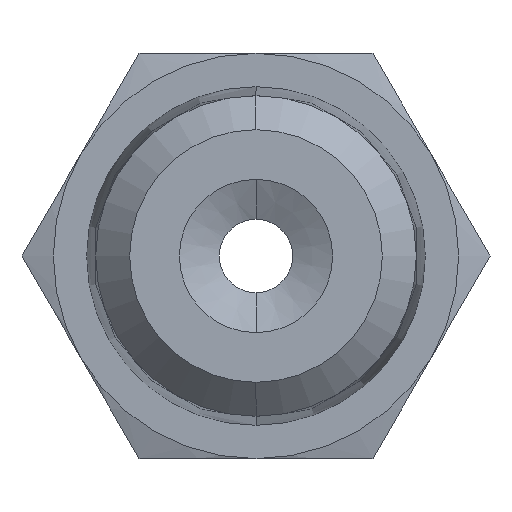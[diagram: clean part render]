
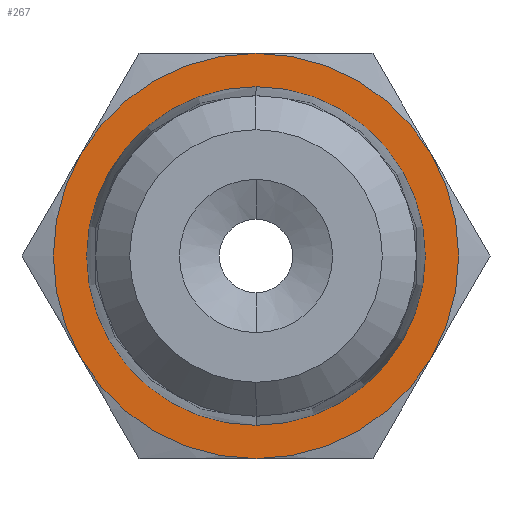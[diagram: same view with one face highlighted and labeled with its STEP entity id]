
A CAD part, left-side view. The second image highlights one B-rep face of the part: STEP entity #267.
In plain terms, the highlighted planar face has unit normal (-1, 0, 0).
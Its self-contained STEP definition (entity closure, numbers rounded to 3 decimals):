
#7 = VERTEX_POINT ( 'NONE', #390 ) ;
#9 = EDGE_CURVE ( 'NONE', #7, #10, #389, .T. ) ;
#10 = VERTEX_POINT ( 'NONE', #384 ) ;
#78 = VERTEX_POINT ( 'NONE', #702 ) ;
#110 = VERTEX_POINT ( 'NONE', #733 ) ;
#134 = ORIENTED_EDGE ( 'NONE', *, *, #135, .F. ) ;
#135 = EDGE_CURVE ( 'NONE', #246, #257, #690, .T. ) ;
#136 = ORIENTED_EDGE ( 'NONE', *, *, #137, .F. ) ;
#137 = EDGE_CURVE ( 'NONE', #281, #246, #685, .T. ) ;
#138 = ORIENTED_EDGE ( 'NONE', *, *, #139, .F. ) ;
#139 = EDGE_CURVE ( 'NONE', #78, #281, #680, .T. ) ;
#144 = VERTEX_POINT ( 'NONE', #675 ) ;
#246 = VERTEX_POINT ( 'NONE', #1223 ) ;
#257 = VERTEX_POINT ( 'NONE', #1144 ) ;
#267 = ADVANCED_FACE ( 'NONE', ( #1262, #1260 ), #1259, .F. ) ;
#268 = EDGE_LOOP ( 'NONE', ( #269, #271 ) ) ;
#269 = ORIENTED_EDGE ( 'NONE', *, *, #270, .F. ) ;
#270 = EDGE_CURVE ( 'NONE', #10, #7, #1248, .T. ) ;
#271 = ORIENTED_EDGE ( 'NONE', *, *, #9, .F. ) ;
#272 = EDGE_LOOP ( 'NONE', ( #273, #134, #136, #138, #284, #286 ) ) ;
#273 = ORIENTED_EDGE ( 'NONE', *, *, #274, .F. ) ;
#274 = EDGE_CURVE ( 'NONE', #257, #110, #1243, .T. ) ;
#281 = VERTEX_POINT ( 'NONE', #1118 ) ;
#284 = ORIENTED_EDGE ( 'NONE', *, *, #285, .T. ) ;
#285 = EDGE_CURVE ( 'NONE', #78, #144, #1107, .T. ) ;
#286 = ORIENTED_EDGE ( 'NONE', *, *, #287, .F. ) ;
#287 = EDGE_CURVE ( 'NONE', #110, #144, #1102, .T. ) ;
#384 = CARTESIAN_POINT ( 'NONE',  ( 0., 0., 5.306 ) ) ;
#385 = DIRECTION ( 'NONE',  ( 0., 0., -1. ) ) ;
#386 = DIRECTION ( 'NONE',  ( -1., 0., 0. ) ) ;
#387 = CARTESIAN_POINT ( 'NONE',  ( 0., 0., 0. ) ) ;
#388 = AXIS2_PLACEMENT_3D ( 'NONE', #387, #386, #385 ) ;
#389 = CIRCLE ( 'NONE', #388, 5.306 ) ;
#390 = CARTESIAN_POINT ( 'NONE',  ( 0., 0., -5.306 ) ) ;
#675 = CARTESIAN_POINT ( 'NONE',  ( 0., 5.499, 3.175 ) ) ;
#676 = DIRECTION ( 'NONE',  ( 0., 0., -1. ) ) ;
#677 = DIRECTION ( 'NONE',  ( 1., 0., 0. ) ) ;
#678 = CARTESIAN_POINT ( 'NONE',  ( 0., 0., 0. ) ) ;
#679 = AXIS2_PLACEMENT_3D ( 'NONE', #678, #677, #676 ) ;
#680 = CIRCLE ( 'NONE', #679, 6.35 ) ;
#681 = DIRECTION ( 'NONE',  ( 0., 0., -1. ) ) ;
#682 = DIRECTION ( 'NONE',  ( 1., 0., 0. ) ) ;
#683 = CARTESIAN_POINT ( 'NONE',  ( 0., 0., 0. ) ) ;
#684 = AXIS2_PLACEMENT_3D ( 'NONE', #683, #682, #681 ) ;
#685 = CIRCLE ( 'NONE', #684, 6.35 ) ;
#686 = DIRECTION ( 'NONE',  ( 0., 0., -1. ) ) ;
#687 = DIRECTION ( 'NONE',  ( 1., 0., 0. ) ) ;
#688 = CARTESIAN_POINT ( 'NONE',  ( 0., 0., 0. ) ) ;
#689 = AXIS2_PLACEMENT_3D ( 'NONE', #688, #687, #686 ) ;
#690 = CIRCLE ( 'NONE', #689, 6.35 ) ;
#702 = CARTESIAN_POINT ( 'NONE',  ( 0., 0., 6.35 ) ) ;
#733 = CARTESIAN_POINT ( 'NONE',  ( 0., 5.499, -3.175 ) ) ;
#1098 = DIRECTION ( 'NONE',  ( 0., 0., -1. ) ) ;
#1099 = DIRECTION ( 'NONE',  ( 1., 0., 0. ) ) ;
#1100 = CARTESIAN_POINT ( 'NONE',  ( 0., 0., 0. ) ) ;
#1101 = AXIS2_PLACEMENT_3D ( 'NONE', #1100, #1099, #1098 ) ;
#1102 = CIRCLE ( 'NONE', #1101, 6.35 ) ;
#1103 = DIRECTION ( 'NONE',  ( 0., 0., 1. ) ) ;
#1104 = DIRECTION ( 'NONE',  ( -1., 0., 0. ) ) ;
#1105 = CARTESIAN_POINT ( 'NONE',  ( 0., 0., 0. ) ) ;
#1106 = AXIS2_PLACEMENT_3D ( 'NONE', #1105, #1104, #1103 ) ;
#1107 = CIRCLE ( 'NONE', #1106, 6.35 ) ;
#1118 = CARTESIAN_POINT ( 'NONE',  ( 0., -5.499, 3.175 ) ) ;
#1144 = CARTESIAN_POINT ( 'NONE',  ( 0., 0., -6.35 ) ) ;
#1223 = CARTESIAN_POINT ( 'NONE',  ( 0., -5.499, -3.175 ) ) ;
#1239 = DIRECTION ( 'NONE',  ( 0., 0., -1. ) ) ;
#1240 = DIRECTION ( 'NONE',  ( 1., 0., 0. ) ) ;
#1241 = CARTESIAN_POINT ( 'NONE',  ( 0., 0., 0. ) ) ;
#1242 = AXIS2_PLACEMENT_3D ( 'NONE', #1241, #1240, #1239 ) ;
#1243 = CIRCLE ( 'NONE', #1242, 6.35 ) ;
#1244 = DIRECTION ( 'NONE',  ( 0., 0., -1. ) ) ;
#1245 = DIRECTION ( 'NONE',  ( -1., 0., 0. ) ) ;
#1246 = CARTESIAN_POINT ( 'NONE',  ( 0., 0., 0. ) ) ;
#1247 = AXIS2_PLACEMENT_3D ( 'NONE', #1246, #1245, #1244 ) ;
#1248 = CIRCLE ( 'NONE', #1247, 5.306 ) ;
#1249 = DIRECTION ( 'NONE',  ( 0., 0., -1. ) ) ;
#1250 = DIRECTION ( 'NONE',  ( 1., 0., 0. ) ) ;
#1251 = CARTESIAN_POINT ( 'NONE',  ( 0., 7.332, 0. ) ) ;
#1252 = AXIS2_PLACEMENT_3D ( 'NONE', #1251, #1250, #1249 ) ;
#1259 = PLANE ( 'NONE',  #1252 ) ;
#1260 = FACE_OUTER_BOUND ( 'NONE', #272, .T. ) ;
#1262 = FACE_BOUND ( 'NONE', #268, .T. ) ;
